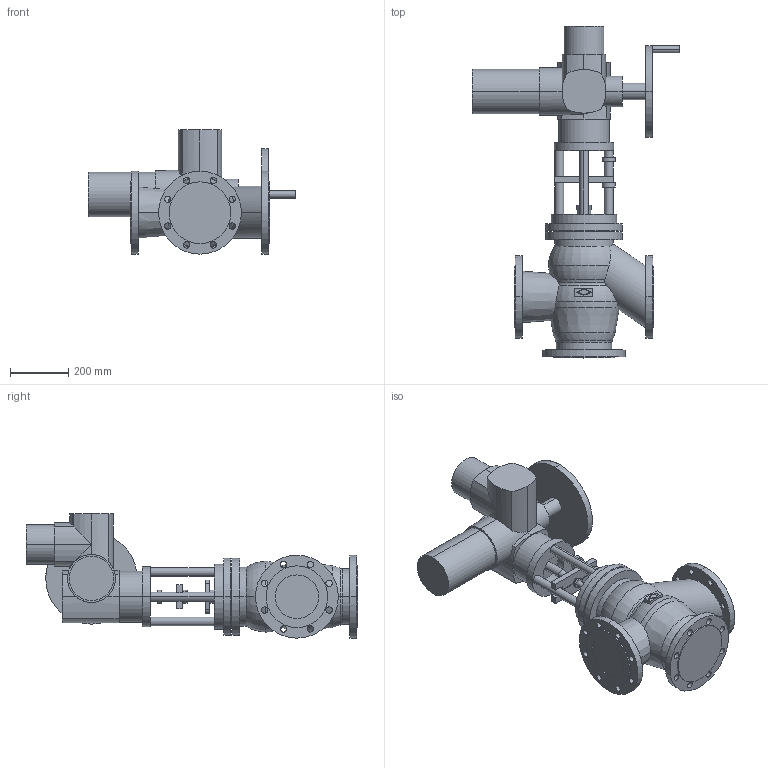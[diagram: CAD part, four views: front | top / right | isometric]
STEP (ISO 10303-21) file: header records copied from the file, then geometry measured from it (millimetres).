
FILE_DESCRIPTION(('OneSpaceDesigner STEP Export'),'2;1');
FILE_NAME('c000003165.stp','2007-01-26T12:36:32',(''),(''),'OneSpace Designer STEP processor for AP214 (Solid Model)','OneSpace Designer 14.00B 27-May-2006 (C) CoCreate Software GmbH','');
FILE_SCHEMA(('AUTOMOTIVE_DESIGN { 1 0 10303 214 1 1 1 1 }'));
Length unit declared in the file: millimetre
Products named in the file (2): 1; 2
Bounding box: 713 x 1142 x 427.5 mm (x, y, z)
Volume: 53735166.2 mm3; surface area: 1918184.2 mm2
Topology: 2 solids, 2 shells, 287 faces, 707 edges, 455 vertices
Faces by surface type: cylinder 159, plane 104, torus 16, cone 8
Entity records: 8080 total; most frequent: CARTESIAN_POINT 1883, ORIENTED_EDGE 1414, DIRECTION 1096, EDGE_CURVE 707, VERTEX_POINT 455, AXIS2_PLACEMENT_3D 396, EDGE_LOOP 374, VECTOR 304
